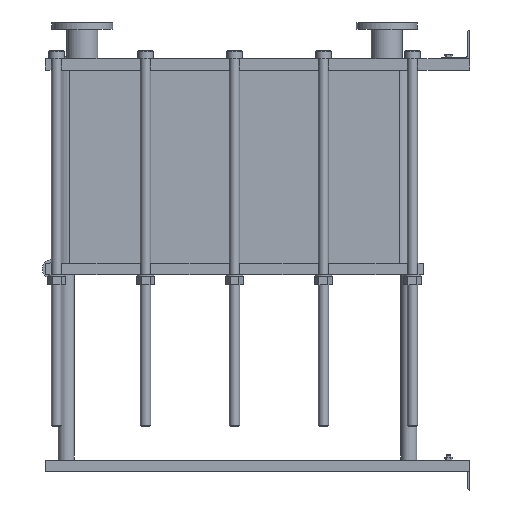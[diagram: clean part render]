
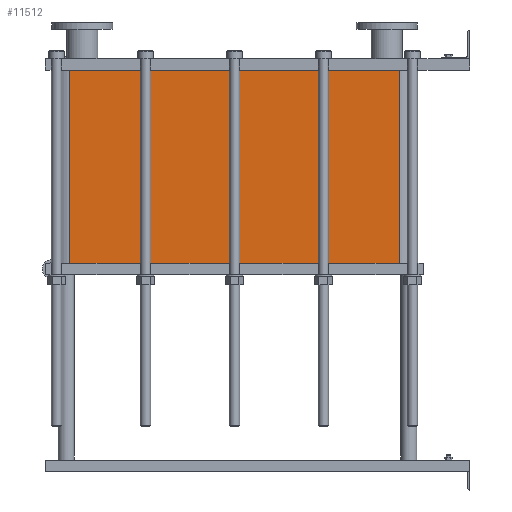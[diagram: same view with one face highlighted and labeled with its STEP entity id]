
A CAD part, left-side view. The second image highlights one B-rep face of the part: STEP entity #11512.
In plain terms, the highlighted planar face has unit normal (-1, 0, 0).
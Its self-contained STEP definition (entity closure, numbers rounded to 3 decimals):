
#1129=LINE('',#23232,#2102);
#1130=LINE('',#23236,#2103);
#1131=LINE('',#23238,#2104);
#1132=LINE('',#23239,#2105);
#2102=VECTOR('',#15887,10.);
#2103=VECTOR('',#15892,10.);
#2104=VECTOR('',#15893,10.);
#2105=VECTOR('',#15894,10.);
#3267=FACE_OUTER_BOUND('',#4093,.T.);
#4093=EDGE_LOOP('',(#10103,#10104,#10105,#10106));
#5642=VERTEX_POINT('',#23229);
#5643=VERTEX_POINT('',#23231);
#5644=VERTEX_POINT('',#23235);
#5645=VERTEX_POINT('',#23237);
#7159=EDGE_CURVE('',#5643,#5642,#1129,.T.);
#7161=EDGE_CURVE('',#5642,#5644,#1130,.T.);
#7162=EDGE_CURVE('',#5645,#5644,#1131,.T.);
#7163=EDGE_CURVE('',#5645,#5643,#1132,.T.);
#10103=ORIENTED_EDGE('',*,*,#7161,.T.);
#10104=ORIENTED_EDGE('',*,*,#7162,.F.);
#10105=ORIENTED_EDGE('',*,*,#7163,.T.);
#10106=ORIENTED_EDGE('',*,*,#7159,.T.);
#10857=PLANE('',#12751);
#11512=ADVANCED_FACE('',(#3267),#10857,.T.);
#12751=AXIS2_PLACEMENT_3D('',#23234,#15890,#15891);
#15887=DIRECTION('',(0.,0.,-1.));
#15890=DIRECTION('center_axis',(-1.,0.,0.));
#15891=DIRECTION('ref_axis',(0.,1.,0.));
#15892=DIRECTION('',(0.,-1.,0.));
#15893=DIRECTION('',(0.,0.,-1.));
#15894=DIRECTION('',(0.,1.,0.));
#23229=CARTESIAN_POINT('',(-200.,1414.,-683.1));
#23231=CARTESIAN_POINT('',(-200.,1414.,0.));
#23232=CARTESIAN_POINT('',(-200.,1414.,0.));
#23234=CARTESIAN_POINT('Origin',(-200.,248.,0.));
#23235=CARTESIAN_POINT('',(-200.,248.,-683.1));
#23236=CARTESIAN_POINT('',(-200.,539.5,-683.1));
#23237=CARTESIAN_POINT('',(-200.,248.,0.));
#23238=CARTESIAN_POINT('',(-200.,248.,0.));
#23239=CARTESIAN_POINT('',(-200.,248.,0.));
